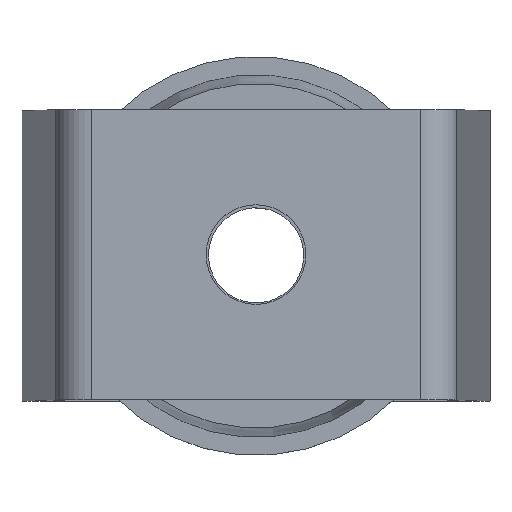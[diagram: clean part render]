
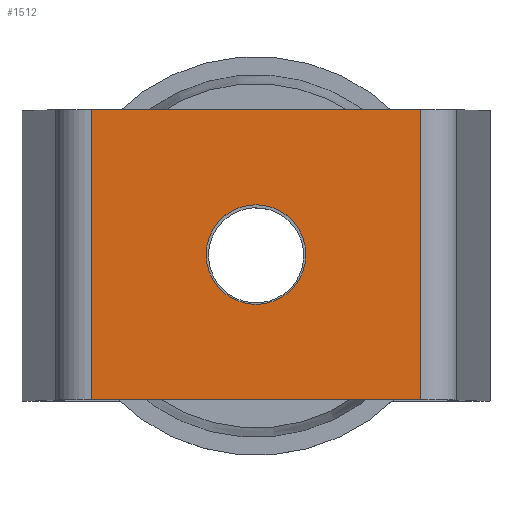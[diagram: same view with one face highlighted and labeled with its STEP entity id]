
A CAD part, top view. The second image highlights one B-rep face of the part: STEP entity #1512.
In plain terms, the highlighted planar face has unit normal (0, 0, 1).
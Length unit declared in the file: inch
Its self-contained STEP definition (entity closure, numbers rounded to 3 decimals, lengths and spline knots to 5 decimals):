
#52=FACE_BOUND('',#337,.T.);
#150=PLANE('',#1617);
#231=FACE_OUTER_BOUND('',#336,.T.);
#336=EDGE_LOOP('',(#1216,#1217,#1218,#1219));
#337=EDGE_LOOP('',(#1220));
#453=LINE('',#9994,#543);
#462=LINE('',#10016,#552);
#464=LINE('',#10022,#554);
#468=LINE('',#10035,#558);
#543=VECTOR('',#1820,2.);
#552=VECTOR('',#1845,2.27127);
#554=VECTOR('',#1853,2.);
#558=VECTOR('',#1869,2.27127);
#592=CIRCLE('',#1583,0.34375);
#694=VERTEX_POINT('',#9937);
#711=VERTEX_POINT('',#9991);
#712=VERTEX_POINT('',#9993);
#717=VERTEX_POINT('',#10015);
#718=VERTEX_POINT('',#10021);
#848=EDGE_CURVE('',#694,#694,#592,.T.);
#876=EDGE_CURVE('',#711,#712,#453,.T.);
#887=EDGE_CURVE('',#717,#712,#462,.T.);
#890=EDGE_CURVE('',#718,#717,#464,.T.);
#897=EDGE_CURVE('',#718,#711,#468,.T.);
#1216=ORIENTED_EDGE('',*,*,#876,.F.);
#1217=ORIENTED_EDGE('',*,*,#897,.F.);
#1218=ORIENTED_EDGE('',*,*,#890,.T.);
#1219=ORIENTED_EDGE('',*,*,#887,.T.);
#1220=ORIENTED_EDGE('',*,*,#848,.T.);
#1512=ADVANCED_FACE('',(#231,#52),#150,.F.);
#1583=AXIS2_PLACEMENT_3D('',#9938,#1766,#1767);
#1617=AXIS2_PLACEMENT_3D('',#10044,#1876,#1877);
#1766=DIRECTION('center_axis',(0.,0.,
-1.));
#1767=DIRECTION('ref_axis',(-1.,0.,0.));
#1820=DIRECTION('',(0.,1.,0.));
#1845=DIRECTION('',(-1.,0.,0.));
#1853=DIRECTION('',(0.,1.,0.));
#1869=DIRECTION('',(-1.,0.,0.));
#1876=DIRECTION('center_axis',(0.,0.,
-1.));
#1877=DIRECTION('ref_axis',(1.,0.,0.));
#9937=CARTESIAN_POINT('',(-0.34375,0.,0.));
#9938=CARTESIAN_POINT('Origin',(0.,0.,
0.));
#9991=CARTESIAN_POINT('',(-1.13563,-1.,0.));
#9993=CARTESIAN_POINT('',(-1.13563,1.,0.));
#9994=CARTESIAN_POINT('',(-1.13563,0.,0.));
#10015=CARTESIAN_POINT('',(1.13563,1.,0.));
#10016=CARTESIAN_POINT('',(7.44497,1.,0.));
#10021=CARTESIAN_POINT('',(1.13563,-1.,0.));
#10022=CARTESIAN_POINT('',(1.13563,0.,0.));
#10035=CARTESIAN_POINT('',(7.44497,-1.,0.));
#10044=CARTESIAN_POINT('Origin',(0.,0.,
0.));
